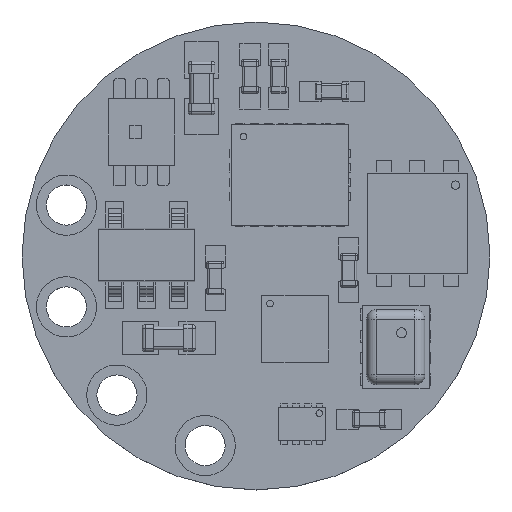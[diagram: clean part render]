
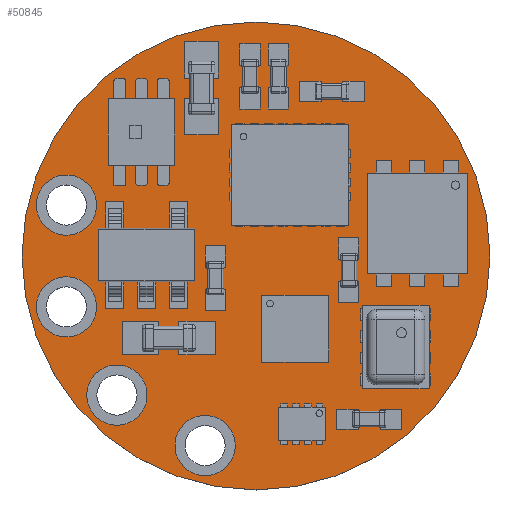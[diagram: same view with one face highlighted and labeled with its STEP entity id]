
A CAD part, top view. The second image highlights one B-rep face of the part: STEP entity #50845.
In plain terms, the highlighted planar face has unit normal (0, 0, 1).
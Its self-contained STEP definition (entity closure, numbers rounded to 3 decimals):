
#50325 = VERTEX_POINT('',#50326);
#50326 = CARTESIAN_POINT('',(13.,20.,0.6));
#50333 = CYLINDRICAL_SURFACE('',#50334,7.);
#50334 = AXIS2_PLACEMENT_3D('',#50335,#50336,#50337);
#50335 = CARTESIAN_POINT('',(20.,20.,0.));
#50336 = DIRECTION('',(0.,0.,-1.));
#50337 = DIRECTION('',(-1.,0.,0.));
#50345 = CYLINDRICAL_SURFACE('',#50346,7.);
#50346 = AXIS2_PLACEMENT_3D('',#50347,#50348,#50349);
#50347 = CARTESIAN_POINT('',(20.,20.,0.));
#50348 = DIRECTION('',(0.,0.,-1.));
#50349 = DIRECTION('',(1.,0.,0.));
#50357 = EDGE_CURVE('',#50325,#50358,#50360,.T.);
#50358 = VERTEX_POINT('',#50359);
#50359 = CARTESIAN_POINT('',(27.,20.,0.6));
#50360 = SURFACE_CURVE('',#50361,(#50366,#50373),.PCURVE_S1.);
#50361 = CIRCLE('',#50362,7.);
#50362 = AXIS2_PLACEMENT_3D('',#50363,#50364,#50365);
#50363 = CARTESIAN_POINT('',(20.,20.,0.6));
#50364 = DIRECTION('',(0.,0.,-1.));
#50365 = DIRECTION('',(-1.,0.,0.));
#50366 = PCURVE('',#50333,#50367);
#50367 = DEFINITIONAL_REPRESENTATION('',(#50368),#50372);
#50368 = LINE('',#50369,#50370);
#50369 = CARTESIAN_POINT('',(0.,-0.6));
#50370 = VECTOR('',#50371,1.);
#50371 = DIRECTION('',(1.,0.));
#50372 = ( GEOMETRIC_REPRESENTATION_CONTEXT(2) 
PARAMETRIC_REPRESENTATION_CONTEXT() REPRESENTATION_CONTEXT('2D SPACE',''
  ) );
#50373 = PCURVE('',#50374,#50379);
#50374 = PLANE('',#50375);
#50375 = AXIS2_PLACEMENT_3D('',#50376,#50377,#50378);
#50376 = CARTESIAN_POINT('',(20.,20.,0.6));
#50377 = DIRECTION('',(-0.,-0.,-1.));
#50378 = DIRECTION('',(-1.,0.,0.));
#50379 = DEFINITIONAL_REPRESENTATION('',(#50380),#50384);
#50380 = CIRCLE('',#50381,7.);
#50381 = AXIS2_PLACEMENT_2D('',#50382,#50383);
#50382 = CARTESIAN_POINT('',(0.,0.));
#50383 = DIRECTION('',(1.,0.));
#50384 = ( GEOMETRIC_REPRESENTATION_CONTEXT(2) 
PARAMETRIC_REPRESENTATION_CONTEXT() REPRESENTATION_CONTEXT('2D SPACE',''
  ) );
#50440 = EDGE_CURVE('',#50358,#50325,#50441,.T.);
#50441 = SURFACE_CURVE('',#50442,(#50447,#50454),.PCURVE_S1.);
#50442 = CIRCLE('',#50443,7.);
#50443 = AXIS2_PLACEMENT_3D('',#50444,#50445,#50446);
#50444 = CARTESIAN_POINT('',(20.,20.,0.6));
#50445 = DIRECTION('',(0.,0.,-1.));
#50446 = DIRECTION('',(1.,0.,0.));
#50447 = PCURVE('',#50345,#50448);
#50448 = DEFINITIONAL_REPRESENTATION('',(#50449),#50453);
#50449 = LINE('',#50450,#50451);
#50450 = CARTESIAN_POINT('',(0.,-0.6));
#50451 = VECTOR('',#50452,1.);
#50452 = DIRECTION('',(1.,0.));
#50453 = ( GEOMETRIC_REPRESENTATION_CONTEXT(2) 
PARAMETRIC_REPRESENTATION_CONTEXT() REPRESENTATION_CONTEXT('2D SPACE',''
  ) );
#50454 = PCURVE('',#50374,#50455);
#50455 = DEFINITIONAL_REPRESENTATION('',(#50456),#50460);
#50456 = CIRCLE('',#50457,7.);
#50457 = AXIS2_PLACEMENT_2D('',#50458,#50459);
#50458 = CARTESIAN_POINT('',(0.,0.));
#50459 = DIRECTION('',(-1.,0.));
#50460 = ( GEOMETRIC_REPRESENTATION_CONTEXT(2) 
PARAMETRIC_REPRESENTATION_CONTEXT() REPRESENTATION_CONTEXT('2D SPACE',''
  ) );
#50498 = CYLINDRICAL_SURFACE('',#50499,0.601);
#50499 = AXIS2_PLACEMENT_3D('',#50500,#50501,#50502);
#50500 = CARTESIAN_POINT('',(18.477,14.327,0.));
#50501 = DIRECTION('',(-0.,-0.,-1.));
#50502 = DIRECTION('',(1.,0.,0.));
#50522 = VERTEX_POINT('',#50523);
#50523 = CARTESIAN_POINT('',(19.078,14.327,0.6));
#50544 = EDGE_CURVE('',#50522,#50522,#50545,.T.);
#50545 = SURFACE_CURVE('',#50546,(#50551,#50558),.PCURVE_S1.);
#50546 = CIRCLE('',#50547,0.601);
#50547 = AXIS2_PLACEMENT_3D('',#50548,#50549,#50550);
#50548 = CARTESIAN_POINT('',(18.477,14.327,0.6));
#50549 = DIRECTION('',(0.,0.,1.));
#50550 = DIRECTION('',(1.,0.,-0.));
#50551 = PCURVE('',#50498,#50552);
#50552 = DEFINITIONAL_REPRESENTATION('',(#50553),#50557);
#50553 = LINE('',#50554,#50555);
#50554 = CARTESIAN_POINT('',(6.283,-0.6));
#50555 = VECTOR('',#50556,1.);
#50556 = DIRECTION('',(-1.,0.));
#50557 = ( GEOMETRIC_REPRESENTATION_CONTEXT(2) 
PARAMETRIC_REPRESENTATION_CONTEXT() REPRESENTATION_CONTEXT('2D SPACE',''
  ) );
#50558 = PCURVE('',#50374,#50559);
#50559 = DEFINITIONAL_REPRESENTATION('',(#50560),#50568);
#50560 = ( BOUNDED_CURVE() B_SPLINE_CURVE(2,(#50561,#50562,#50563,#50564
    ,#50565,#50566,#50567),.UNSPECIFIED.,.T.,.F.) 
B_SPLINE_CURVE_WITH_KNOTS((1,2,2,2,2,1),(-2.094,0.,
    2.094,4.189,6.283,8.378),
.UNSPECIFIED.) CURVE() GEOMETRIC_REPRESENTATION_ITEM() 
RATIONAL_B_SPLINE_CURVE((1.,0.5,1.,0.5,1.,0.5,1.)) REPRESENTATION_ITEM(
  '') );
#50561 = CARTESIAN_POINT('',(0.922,-5.673));
#50562 = CARTESIAN_POINT('',(0.922,-4.632));
#50563 = CARTESIAN_POINT('',(1.823,-5.152));
#50564 = CARTESIAN_POINT('',(2.725,-5.673));
#50565 = CARTESIAN_POINT('',(1.823,-6.193));
#50566 = CARTESIAN_POINT('',(0.922,-6.714));
#50567 = CARTESIAN_POINT('',(0.922,-5.673));
#50568 = ( GEOMETRIC_REPRESENTATION_CONTEXT(2) 
PARAMETRIC_REPRESENTATION_CONTEXT() REPRESENTATION_CONTEXT('2D SPACE',''
  ) );
#50584 = CYLINDRICAL_SURFACE('',#50585,0.601);
#50585 = AXIS2_PLACEMENT_3D('',#50586,#50587,#50588);
#50586 = CARTESIAN_POINT('',(15.84,15.84,0.));
#50587 = DIRECTION('',(-0.,-0.,-1.));
#50588 = DIRECTION('',(1.,0.,0.));
#50608 = VERTEX_POINT('',#50609);
#50609 = CARTESIAN_POINT('',(16.441,15.84,0.6));
#50630 = EDGE_CURVE('',#50608,#50608,#50631,.T.);
#50631 = SURFACE_CURVE('',#50632,(#50637,#50644),.PCURVE_S1.);
#50632 = CIRCLE('',#50633,0.601);
#50633 = AXIS2_PLACEMENT_3D('',#50634,#50635,#50636);
#50634 = CARTESIAN_POINT('',(15.84,15.84,0.6));
#50635 = DIRECTION('',(0.,0.,1.));
#50636 = DIRECTION('',(1.,0.,-0.));
#50637 = PCURVE('',#50584,#50638);
#50638 = DEFINITIONAL_REPRESENTATION('',(#50639),#50643);
#50639 = LINE('',#50640,#50641);
#50640 = CARTESIAN_POINT('',(6.283,-0.6));
#50641 = VECTOR('',#50642,1.);
#50642 = DIRECTION('',(-1.,0.));
#50643 = ( GEOMETRIC_REPRESENTATION_CONTEXT(2) 
PARAMETRIC_REPRESENTATION_CONTEXT() REPRESENTATION_CONTEXT('2D SPACE',''
  ) );
#50644 = PCURVE('',#50374,#50645);
#50645 = DEFINITIONAL_REPRESENTATION('',(#50646),#50654);
#50646 = ( BOUNDED_CURVE() B_SPLINE_CURVE(2,(#50647,#50648,#50649,#50650
    ,#50651,#50652,#50653),.UNSPECIFIED.,.T.,.F.) 
B_SPLINE_CURVE_WITH_KNOTS((1,2,2,2,2,1),(-2.094,0.,
    2.094,4.189,6.283,8.378),
.UNSPECIFIED.) CURVE() GEOMETRIC_REPRESENTATION_ITEM() 
RATIONAL_B_SPLINE_CURVE((1.,0.5,1.,0.5,1.,0.5,1.)) REPRESENTATION_ITEM(
  '') );
#50647 = CARTESIAN_POINT('',(3.559,-4.16));
#50648 = CARTESIAN_POINT('',(3.559,-3.119));
#50649 = CARTESIAN_POINT('',(4.46,-3.639));
#50650 = CARTESIAN_POINT('',(5.362,-4.16));
#50651 = CARTESIAN_POINT('',(4.46,-4.68));
#50652 = CARTESIAN_POINT('',(3.559,-5.201));
#50653 = CARTESIAN_POINT('',(3.559,-4.16));
#50654 = ( GEOMETRIC_REPRESENTATION_CONTEXT(2) 
PARAMETRIC_REPRESENTATION_CONTEXT() REPRESENTATION_CONTEXT('2D SPACE',''
  ) );
#50670 = CYLINDRICAL_SURFACE('',#50671,0.601);
#50671 = AXIS2_PLACEMENT_3D('',#50672,#50673,#50674);
#50672 = CARTESIAN_POINT('',(14.327,18.477,0.));
#50673 = DIRECTION('',(-0.,-0.,-1.));
#50674 = DIRECTION('',(1.,0.,0.));
#50694 = VERTEX_POINT('',#50695);
#50695 = CARTESIAN_POINT('',(14.928,18.477,0.6));
#50716 = EDGE_CURVE('',#50694,#50694,#50717,.T.);
#50717 = SURFACE_CURVE('',#50718,(#50723,#50730),.PCURVE_S1.);
#50718 = CIRCLE('',#50719,0.601);
#50719 = AXIS2_PLACEMENT_3D('',#50720,#50721,#50722);
#50720 = CARTESIAN_POINT('',(14.327,18.477,0.6));
#50721 = DIRECTION('',(0.,0.,1.));
#50722 = DIRECTION('',(1.,0.,-0.));
#50723 = PCURVE('',#50670,#50724);
#50724 = DEFINITIONAL_REPRESENTATION('',(#50725),#50729);
#50725 = LINE('',#50726,#50727);
#50726 = CARTESIAN_POINT('',(6.283,-0.6));
#50727 = VECTOR('',#50728,1.);
#50728 = DIRECTION('',(-1.,0.));
#50729 = ( GEOMETRIC_REPRESENTATION_CONTEXT(2) 
PARAMETRIC_REPRESENTATION_CONTEXT() REPRESENTATION_CONTEXT('2D SPACE',''
  ) );
#50730 = PCURVE('',#50374,#50731);
#50731 = DEFINITIONAL_REPRESENTATION('',(#50732),#50740);
#50732 = ( BOUNDED_CURVE() B_SPLINE_CURVE(2,(#50733,#50734,#50735,#50736
    ,#50737,#50738,#50739),.UNSPECIFIED.,.T.,.F.) 
B_SPLINE_CURVE_WITH_KNOTS((1,2,2,2,2,1),(-2.094,0.,
    2.094,4.189,6.283,8.378),
.UNSPECIFIED.) CURVE() GEOMETRIC_REPRESENTATION_ITEM() 
RATIONAL_B_SPLINE_CURVE((1.,0.5,1.,0.5,1.,0.5,1.)) REPRESENTATION_ITEM(
  '') );
#50733 = CARTESIAN_POINT('',(5.072,-1.523));
#50734 = CARTESIAN_POINT('',(5.072,-0.482));
#50735 = CARTESIAN_POINT('',(5.973,-1.002));
#50736 = CARTESIAN_POINT('',(6.875,-1.523));
#50737 = CARTESIAN_POINT('',(5.973,-2.043));
#50738 = CARTESIAN_POINT('',(5.072,-2.564));
#50739 = CARTESIAN_POINT('',(5.072,-1.523));
#50740 = ( GEOMETRIC_REPRESENTATION_CONTEXT(2) 
PARAMETRIC_REPRESENTATION_CONTEXT() REPRESENTATION_CONTEXT('2D SPACE',''
  ) );
#50756 = CYLINDRICAL_SURFACE('',#50757,0.601);
#50757 = AXIS2_PLACEMENT_3D('',#50758,#50759,#50760);
#50758 = CARTESIAN_POINT('',(14.327,21.523,0.));
#50759 = DIRECTION('',(-0.,-0.,-1.));
#50760 = DIRECTION('',(1.,0.,0.));
#50780 = VERTEX_POINT('',#50781);
#50781 = CARTESIAN_POINT('',(14.928,21.523,0.6));
#50802 = EDGE_CURVE('',#50780,#50780,#50803,.T.);
#50803 = SURFACE_CURVE('',#50804,(#50809,#50816),.PCURVE_S1.);
#50804 = CIRCLE('',#50805,0.601);
#50805 = AXIS2_PLACEMENT_3D('',#50806,#50807,#50808);
#50806 = CARTESIAN_POINT('',(14.327,21.523,0.6));
#50807 = DIRECTION('',(0.,0.,1.));
#50808 = DIRECTION('',(1.,0.,-0.));
#50809 = PCURVE('',#50756,#50810);
#50810 = DEFINITIONAL_REPRESENTATION('',(#50811),#50815);
#50811 = LINE('',#50812,#50813);
#50812 = CARTESIAN_POINT('',(6.283,-0.6));
#50813 = VECTOR('',#50814,1.);
#50814 = DIRECTION('',(-1.,0.));
#50815 = ( GEOMETRIC_REPRESENTATION_CONTEXT(2) 
PARAMETRIC_REPRESENTATION_CONTEXT() REPRESENTATION_CONTEXT('2D SPACE',''
  ) );
#50816 = PCURVE('',#50374,#50817);
#50817 = DEFINITIONAL_REPRESENTATION('',(#50818),#50826);
#50818 = ( BOUNDED_CURVE() B_SPLINE_CURVE(2,(#50819,#50820,#50821,#50822
    ,#50823,#50824,#50825),.UNSPECIFIED.,.T.,.F.) 
B_SPLINE_CURVE_WITH_KNOTS((1,2,2,2,2,1),(-2.094,0.,
    2.094,4.189,6.283,8.378),
.UNSPECIFIED.) CURVE() GEOMETRIC_REPRESENTATION_ITEM() 
RATIONAL_B_SPLINE_CURVE((1.,0.5,1.,0.5,1.,0.5,1.)) REPRESENTATION_ITEM(
  '') );
#50819 = CARTESIAN_POINT('',(5.072,1.523));
#50820 = CARTESIAN_POINT('',(5.072,2.564));
#50821 = CARTESIAN_POINT('',(5.973,2.043));
#50822 = CARTESIAN_POINT('',(6.875,1.523));
#50823 = CARTESIAN_POINT('',(5.973,1.002));
#50824 = CARTESIAN_POINT('',(5.072,0.482));
#50825 = CARTESIAN_POINT('',(5.072,1.523));
#50826 = ( GEOMETRIC_REPRESENTATION_CONTEXT(2) 
PARAMETRIC_REPRESENTATION_CONTEXT() REPRESENTATION_CONTEXT('2D SPACE',''
  ) );
#50845 = ADVANCED_FACE('',(#50846,#50850,#50853,#50856,#50859),#50374,
  .F.);
#50846 = FACE_BOUND('',#50847,.F.);
#50847 = EDGE_LOOP('',(#50848,#50849));
#50848 = ORIENTED_EDGE('',*,*,#50357,.T.);
#50849 = ORIENTED_EDGE('',*,*,#50440,.T.);
#50850 = FACE_BOUND('',#50851,.F.);
#50851 = EDGE_LOOP('',(#50852));
#50852 = ORIENTED_EDGE('',*,*,#50544,.T.);
#50853 = FACE_BOUND('',#50854,.F.);
#50854 = EDGE_LOOP('',(#50855));
#50855 = ORIENTED_EDGE('',*,*,#50630,.T.);
#50856 = FACE_BOUND('',#50857,.F.);
#50857 = EDGE_LOOP('',(#50858));
#50858 = ORIENTED_EDGE('',*,*,#50716,.T.);
#50859 = FACE_BOUND('',#50860,.F.);
#50860 = EDGE_LOOP('',(#50861));
#50861 = ORIENTED_EDGE('',*,*,#50802,.T.);
